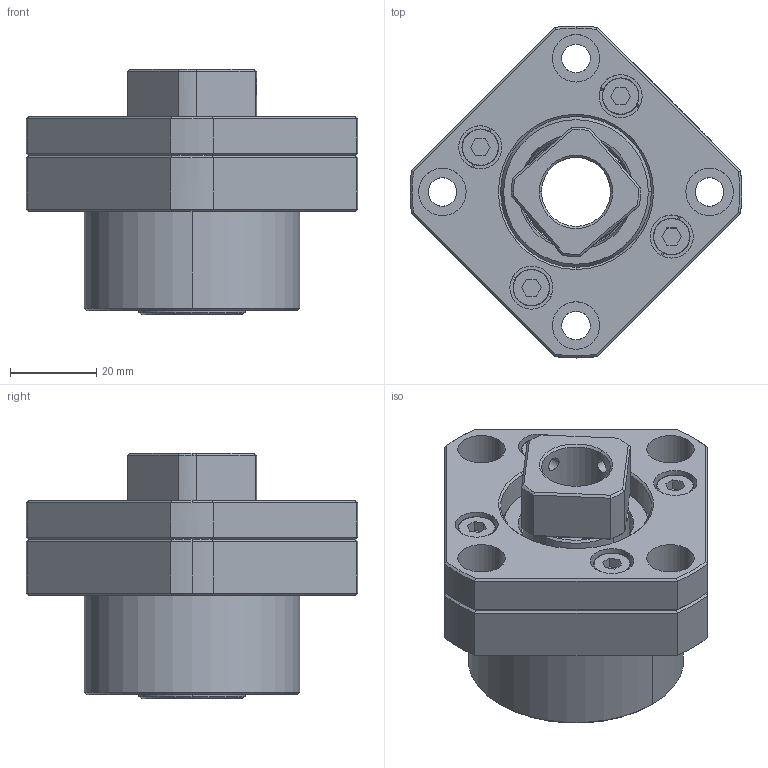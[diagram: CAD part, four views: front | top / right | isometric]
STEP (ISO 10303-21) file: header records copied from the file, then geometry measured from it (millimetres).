
FILE_DESCRIPTION (( 'STEP AP214' ), '1' );
FILE_NAME ('FK17.STEP', '2020-09-04T02:36:05', ( '' ), ( '' ), 'SwSTEP 2.0', 'SolidWorks 2015', '' );
FILE_SCHEMA (( 'AUTOMOTIVE_DESIGN' ));
Length unit declared in the file: millimetre
Products named in the file (1): FK17
Bounding box: 77 x 77 x 57 mm (x, y, z)
Surface area: 27946.1 mm2 (no closed solid volume)
Topology: 0 solids, 16 shells, 279 faces, 766 edges, 502 vertices
Faces by surface type: plane 108, cone 67, cylinder 67, bspline 35, sphere 2
Entity records: 14233 total; most frequent: CARTESIAN_POINT 4444, ORIENTED_EDGE 1373, DIRECTION 1300, EDGE_CURVE 756, VERTEX_POINT 498, AXIS2_PLACEMENT_3D 486, VECTOR 328, LINE 328
